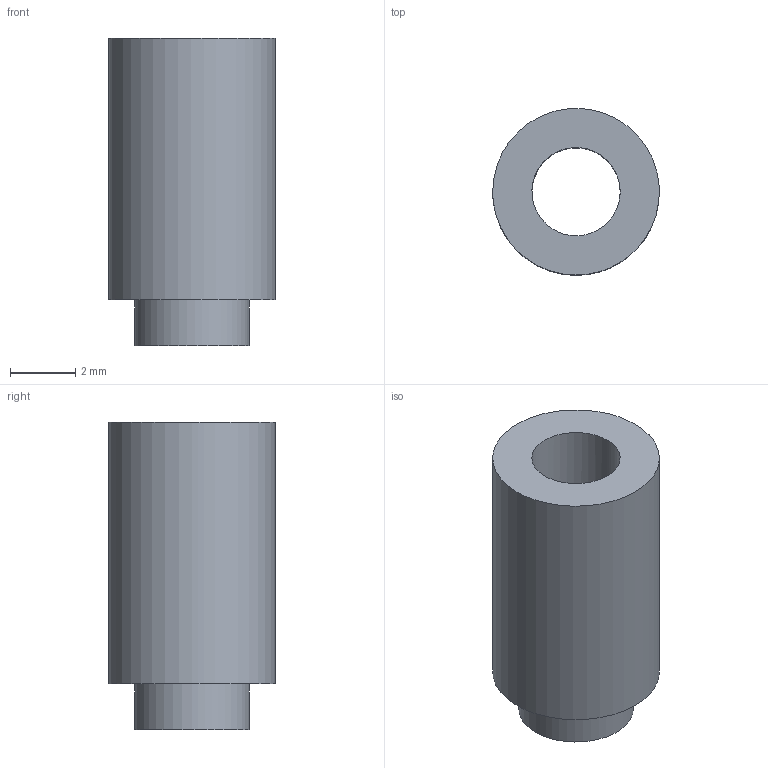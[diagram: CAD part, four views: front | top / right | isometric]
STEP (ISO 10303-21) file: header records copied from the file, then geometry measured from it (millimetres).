
FILE_DESCRIPTION(('FreeCAD Model'),'2;1');
FILE_NAME('Open CASCADE Shape Model','2026-03-20T17:23:23',('Author'),( ''),'Open CASCADE STEP processor 7.8','FreeCAD','Unknown');
FILE_SCHEMA(('AP242_MANAGED_MODEL_BASED_3D_ENGINEERING_MIM_LF. {1 0 10303 442 1 1 4 }'));
Length unit declared in the file: millimetre
Products named in the file (1): 1_transformed
Bounding box: 5.1 x 5.1 x 9.4 mm (x, y, z)
Volume: 124.2 mm3; surface area: 253.3 mm2
Topology: 1 solids, 1 shells, 6 faces, 10 edges, 7 vertices
Faces by surface type: bspline 6
Entity records: 209 total; most frequent: CARTESIAN_POINT 113, ORIENTED_EDGE 20, EDGE_CURVE 10, FACE_BOUND 9, EDGE_LOOP 9, VERTEX_POINT 7, ADVANCED_FACE 6, B_SPLINE_SURFACE_WITH_KNOTS 3
